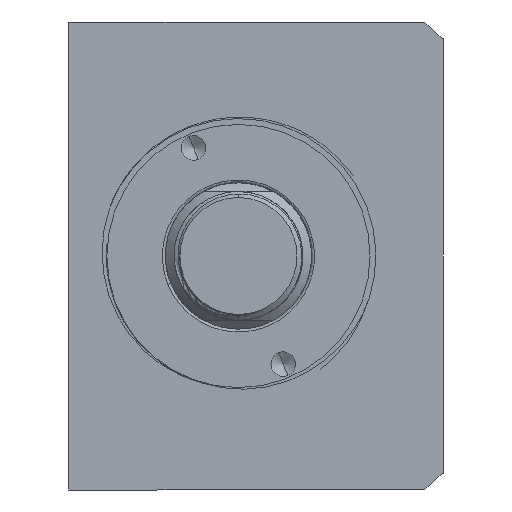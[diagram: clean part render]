
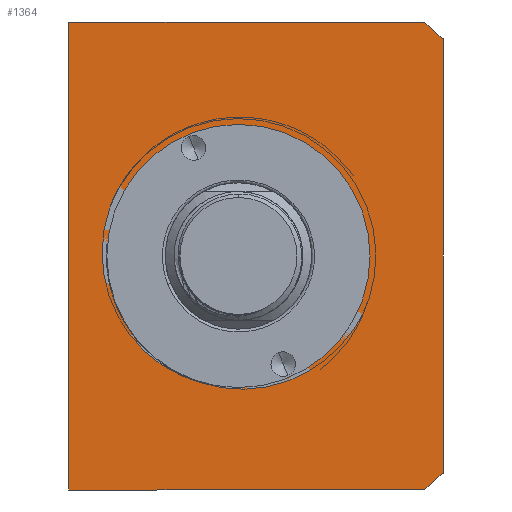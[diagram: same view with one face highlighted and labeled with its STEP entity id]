
A CAD part, front view. The second image highlights one B-rep face of the part: STEP entity #1364.
In plain terms, the highlighted planar face has unit normal (0, -1, 0) as drawn and (0, 0, 1) by its records, which use the part's own axes.
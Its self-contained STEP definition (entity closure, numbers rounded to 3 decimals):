
#288 = CIRCLE ( 'NONE', #5751, 22.5 ) ;
#371 = ORIENTED_EDGE ( 'NONE', *, *, #6373, .T. ) ;
#472 = EDGE_CURVE ( 'NONE', #8524, #6923, #3307, .T. ) ;
#819 = DIRECTION ( 'NONE',  ( 0., 0., 1. ) ) ;
#844 = AXIS2_PLACEMENT_3D ( 'NONE', #4317, #5438, #5158 ) ;
#892 = FACE_BOUND ( 'NONE', #2716, .T. ) ;
#899 = VECTOR ( 'NONE', #10061, 1000. ) ;
#901 = VECTOR ( 'NONE', #7607, 1000. ) ;
#973 = CARTESIAN_POINT ( 'NONE',  ( -40., -11.507, 70. ) ) ;
#1364 = ADVANCED_FACE ( 'NONE', ( #892, #8782 ), #3047, .T. ) ;
#1627 = DIRECTION ( 'NONE',  ( 0., 0., 1. ) ) ;
#1813 = ORIENTED_EDGE ( 'NONE', *, *, #8831, .F. ) ;
#1842 = ORIENTED_EDGE ( 'NONE', *, *, #12812, .T. ) ;
#1871 = CIRCLE ( 'NONE', #4656, 51. ) ;
#1997 = CARTESIAN_POINT ( 'NONE',  ( 0., -40.507, 70. ) ) ;
#2084 = CARTESIAN_POINT ( 'NONE',  ( 40., -11.507, 70. ) ) ;
#2566 = EDGE_CURVE ( 'NONE', #10615, #4384, #8013, .T. ) ;
#2716 = EDGE_LOOP ( 'NONE', ( #11350, #1813 ) ) ;
#2814 = DIRECTION ( 'NONE',  ( 1., 0., 0. ) ) ;
#2819 = VECTOR ( 'NONE', #9252, 1000. ) ;
#2832 = CARTESIAN_POINT ( 'NONE',  ( -40., -11.507, 70. ) ) ;
#2968 = EDGE_CURVE ( 'NONE', #4384, #3623, #3629, .T. ) ;
#3032 = DIRECTION ( 'NONE',  ( 1., 0., 0. ) ) ;
#3047 = PLANE ( 'NONE',  #844 ) ;
#3150 = EDGE_CURVE ( 'NONE', #11202, #10615, #5714, .T. ) ;
#3246 = VERTEX_POINT ( 'NONE', #11811 ) ;
#3307 = CIRCLE ( 'NONE', #12599, 22.5 ) ;
#3623 = VERTEX_POINT ( 'NONE', #973 ) ;
#3629 = LINE ( 'NONE', #12738, #901 ) ;
#4317 = CARTESIAN_POINT ( 'NONE',  ( 0., 0., 70. ) ) ;
#4384 = VERTEX_POINT ( 'NONE', #6631 ) ;
#4481 = ORIENTED_EDGE ( 'NONE', *, *, #2968, .T. ) ;
#4555 = CARTESIAN_POINT ( 'NONE',  ( -40., -75.507, 70. ) ) ;
#4656 = AXIS2_PLACEMENT_3D ( 'NONE', #1997, #9213, #3032 ) ;
#4969 = VECTOR ( 'NONE', #6651, 1000. ) ;
#4980 = CARTESIAN_POINT ( 'NONE',  ( -40., -72.145, 70. ) ) ;
#5036 = ORIENTED_EDGE ( 'NONE', *, *, #3150, .T. ) ;
#5158 = DIRECTION ( 'NONE',  ( 1., 0., 0. ) ) ;
#5378 = DIRECTION ( 'NONE',  ( 0., 0., 1. ) ) ;
#5438 = DIRECTION ( 'NONE',  ( 0., 0., 1. ) ) ;
#5714 = CIRCLE ( 'NONE', #12986, 51. ) ;
#5751 = AXIS2_PLACEMENT_3D ( 'NONE', #6991, #819, #8035 ) ;
#5758 = CARTESIAN_POINT ( 'NONE',  ( 40., -72.145, 70. ) ) ;
#6317 = CARTESIAN_POINT ( 'NONE',  ( 22.5, -40.507, 70. ) ) ;
#6373 = EDGE_CURVE ( 'NONE', #3246, #11202, #10468, .T. ) ;
#6382 = LINE ( 'NONE', #2832, #899 ) ;
#6631 = CARTESIAN_POINT ( 'NONE',  ( 40., -11.507, 70. ) ) ;
#6651 = DIRECTION ( 'NONE',  ( 1., 0., 0. ) ) ;
#6923 = VERTEX_POINT ( 'NONE', #9599 ) ;
#6991 = CARTESIAN_POINT ( 'NONE',  ( 0., -40.507, 70. ) ) ;
#7607 = DIRECTION ( 'NONE',  ( -1., 0., 0. ) ) ;
#7767 = CARTESIAN_POINT ( 'NONE',  ( 37.094, -75.507, 70. ) ) ;
#7825 = CARTESIAN_POINT ( 'NONE',  ( 0., -40.507, 70. ) ) ;
#8013 = LINE ( 'NONE', #2084, #2819 ) ;
#8035 = DIRECTION ( 'NONE',  ( 1., 0., 0. ) ) ;
#8524 = VERTEX_POINT ( 'NONE', #6317 ) ;
#8782 = FACE_OUTER_BOUND ( 'NONE', #10570, .T. ) ;
#8831 = EDGE_CURVE ( 'NONE', #6923, #8524, #288, .T. ) ;
#8851 = DIRECTION ( 'NONE',  ( 1., 0., 0. ) ) ;
#9213 = DIRECTION ( 'NONE',  ( 0., 0., 1. ) ) ;
#9252 = DIRECTION ( 'NONE',  ( 0., 1., 0. ) ) ;
#9599 = CARTESIAN_POINT ( 'NONE',  ( -22.5, -40.507, 70. ) ) ;
#10061 = DIRECTION ( 'NONE',  ( 0., -1., 0. ) ) ;
#10468 = LINE ( 'NONE', #4555, #4969 ) ;
#10570 = EDGE_LOOP ( 'NONE', ( #1842, #12186, #371, #5036, #12346, #4481 ) ) ;
#10615 = VERTEX_POINT ( 'NONE', #5758 ) ;
#11180 = CARTESIAN_POINT ( 'NONE',  ( 0., -40.507, 70. ) ) ;
#11202 = VERTEX_POINT ( 'NONE', #7767 ) ;
#11350 = ORIENTED_EDGE ( 'NONE', *, *, #472, .F. ) ;
#11512 = VERTEX_POINT ( 'NONE', #4980 ) ;
#11739 = EDGE_CURVE ( 'NONE', #11512, #3246, #1871, .T. ) ;
#11811 = CARTESIAN_POINT ( 'NONE',  ( -37.094, -75.507, 70. ) ) ;
#12186 = ORIENTED_EDGE ( 'NONE', *, *, #11739, .T. ) ;
#12346 = ORIENTED_EDGE ( 'NONE', *, *, #2566, .T. ) ;
#12599 = AXIS2_PLACEMENT_3D ( 'NONE', #11180, #5378, #2814 ) ;
#12738 = CARTESIAN_POINT ( 'NONE',  ( -40., -11.507, 70. ) ) ;
#12812 = EDGE_CURVE ( 'NONE', #3623, #11512, #6382, .T. ) ;
#12986 = AXIS2_PLACEMENT_3D ( 'NONE', #7825, #1627, #8851 ) ;
